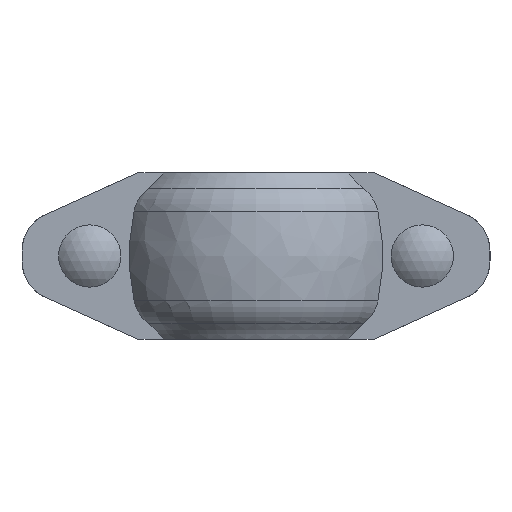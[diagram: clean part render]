
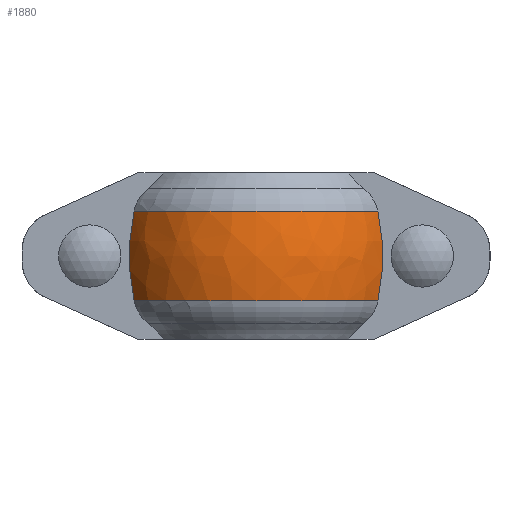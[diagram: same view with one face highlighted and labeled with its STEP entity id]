
A CAD part, front view. The second image highlights one B-rep face of the part: STEP entity #1880.
In plain terms, the highlighted free-form (B-spline) face has degree [2, 2] with [3, 5] control points.
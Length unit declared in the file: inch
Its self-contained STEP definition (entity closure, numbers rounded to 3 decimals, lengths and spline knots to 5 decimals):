
#27=(
BOUNDED_SURFACE()
B_SPLINE_SURFACE(2,2,((#3381,#3382,#3383,#3384,#3385),(#3386,#3387,#3388,
#3389,#3390),(#3391,#3392,#3393,#3394,#3395)),.UNSPECIFIED.,.F.,.F.,.F.)
B_SPLINE_SURFACE_WITH_KNOTS((3,3),(3,2,3),(-0.18099,0.18099),
(0.51373,1.5708,2.62786),.UNSPECIFIED.)
GEOMETRIC_REPRESENTATION_ITEM()
RATIONAL_B_SPLINE_SURFACE(((1.,0.864,1.,0.864,1.),
(0.984,0.849,0.984,0.849,
0.984),(1.,0.864,1.,0.864,1.)))
REPRESENTATION_ITEM('')
SURFACE()
);
#62=B_SPLINE_CURVE_WITH_KNOTS('',3,(#3114,#3115,#3116,#3117,#3118,#3119,
#3120,#3121,#3122,#3123),.UNSPECIFIED.,.F.,.F.,(4,2,2,2,4),(5.54524,
6.07723,6.85898,7.64073,8.17272),
 .UNSPECIFIED.);
#72=B_SPLINE_CURVE_WITH_KNOTS('',3,(#3244,#3245,#3246,#3247,#3248,#3249,
#3250,#3251,#3252,#3253),.UNSPECIFIED.,.F.,.F.,(4,2,2,2,4),(19.2632,
19.79519,20.57694,21.35869,21.89068),
 .UNSPECIFIED.);
#236=FACE_OUTER_BOUND('',#341,.T.);
#341=EDGE_LOOP('',(#1665,#1666,#1667,#1668));
#696=CIRCLE('',#2096,1.701);
#701=CIRCLE('',#2107,1.701);
#855=VERTEX_POINT('',#3100);
#856=VERTEX_POINT('',#3113);
#870=VERTEX_POINT('',#3230);
#871=VERTEX_POINT('',#3243);
#1097=EDGE_CURVE('',#856,#855,#62,.T.);
#1118=EDGE_CURVE('',#871,#870,#72,.T.);
#1137=EDGE_CURVE('',#871,#855,#696,.T.);
#1142=EDGE_CURVE('',#870,#856,#701,.T.);
#1665=ORIENTED_EDGE('',*,*,#1097,.T.);
#1666=ORIENTED_EDGE('',*,*,#1137,.F.);
#1667=ORIENTED_EDGE('',*,*,#1118,.T.);
#1668=ORIENTED_EDGE('',*,*,#1142,.T.);
#1880=ADVANCED_FACE('',(#236),#27,.F.);
#2096=AXIS2_PLACEMENT_3D('',#3369,#2588,#2589);
#2107=AXIS2_PLACEMENT_3D('',#3380,#2610,#2611);
#2588=DIRECTION('center_axis',(0.,0.,-1.));
#2589=DIRECTION('ref_axis',(1.,0.,0.));
#2610=DIRECTION('center_axis',(0.,0.,-1.));
#2611=DIRECTION('ref_axis',(1.,0.,0.));
#3100=CARTESIAN_POINT('',(1.46758,0.86,-0.54));
#3113=CARTESIAN_POINT('',(1.46758,0.86,0.54));
#3114=CARTESIAN_POINT('Ctrl Pts',(1.46758,0.86,0.54));
#3115=CARTESIAN_POINT('Ctrl Pts',(1.48326,0.86,0.4661));
#3116=CARTESIAN_POINT('Ctrl Pts',(1.49561,0.86,0.39178));
#3117=CARTESIAN_POINT('Ctrl Pts',(1.51797,0.86,0.2097));
#3118=CARTESIAN_POINT('Ctrl Pts',(1.52411,0.86,0.10259));
#3119=CARTESIAN_POINT('Ctrl Pts',(1.52411,0.86,-0.10259));
#3120=CARTESIAN_POINT('Ctrl Pts',(1.51797,0.86,-0.2097));
#3121=CARTESIAN_POINT('Ctrl Pts',(1.49561,0.86,-0.39178));
#3122=CARTESIAN_POINT('Ctrl Pts',(1.48326,0.86,-0.4661));
#3123=CARTESIAN_POINT('Ctrl Pts',(1.46758,0.86,-0.54));
#3230=CARTESIAN_POINT('',(-1.46758,0.86,0.54));
#3243=CARTESIAN_POINT('',(-1.46758,0.86,-0.54));
#3244=CARTESIAN_POINT('Ctrl Pts',(-1.46758,0.86,-0.54));
#3245=CARTESIAN_POINT('Ctrl Pts',(-1.48326,0.86,-0.4661));
#3246=CARTESIAN_POINT('Ctrl Pts',(-1.49561,0.86,-0.39178));
#3247=CARTESIAN_POINT('Ctrl Pts',(-1.51797,0.86,-0.2097));
#3248=CARTESIAN_POINT('Ctrl Pts',(-1.52411,0.86,-0.10259));
#3249=CARTESIAN_POINT('Ctrl Pts',(-1.52411,0.86,0.10259));
#3250=CARTESIAN_POINT('Ctrl Pts',(-1.51797,0.86,0.2097));
#3251=CARTESIAN_POINT('Ctrl Pts',(-1.49561,0.86,0.39178));
#3252=CARTESIAN_POINT('Ctrl Pts',(-1.48326,0.86,0.4661));
#3253=CARTESIAN_POINT('Ctrl Pts',(-1.46758,0.86,0.54));
#3369=CARTESIAN_POINT('Origin',(0.,0.,-0.54));
#3380=CARTESIAN_POINT('Origin',(0.,0.,0.54));
#3381=CARTESIAN_POINT('Ctrl Pts',(-1.48143,0.83592,0.54));
#3382=CARTESIAN_POINT('Ctrl Pts',(-0.9933,1.701,0.54));
#3383=CARTESIAN_POINT('Ctrl Pts',(0.,1.701,0.54));
#3384=CARTESIAN_POINT('Ctrl Pts',(0.9933,1.701,0.54));
#3385=CARTESIAN_POINT('Ctrl Pts',(1.48143,0.83592,0.54));
#3386=CARTESIAN_POINT('Ctrl Pts',(-1.56749,0.88448,0.));
#3387=CARTESIAN_POINT('Ctrl Pts',(-1.051,1.79981,0.));
#3388=CARTESIAN_POINT('Ctrl Pts',(0.,1.79981,0.));
#3389=CARTESIAN_POINT('Ctrl Pts',(1.051,1.79981,0.));
#3390=CARTESIAN_POINT('Ctrl Pts',(1.56749,0.88448,0.));
#3391=CARTESIAN_POINT('Ctrl Pts',(-1.48143,0.83592,-0.54));
#3392=CARTESIAN_POINT('Ctrl Pts',(-0.9933,1.701,-0.54));
#3393=CARTESIAN_POINT('Ctrl Pts',(0.,1.701,-0.54));
#3394=CARTESIAN_POINT('Ctrl Pts',(0.9933,1.701,-0.54));
#3395=CARTESIAN_POINT('Ctrl Pts',(1.48143,0.83592,-0.54));
